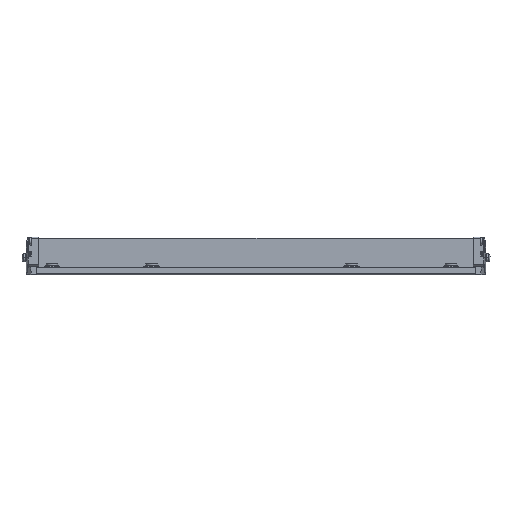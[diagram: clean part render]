
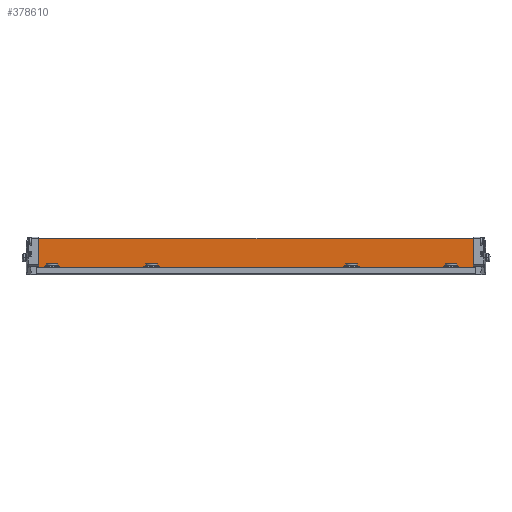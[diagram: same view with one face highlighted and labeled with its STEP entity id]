
A CAD part, top view. The second image highlights one B-rep face of the part: STEP entity #378610.
In plain terms, the highlighted planar face has unit normal (0, 0, 1) as drawn and (1, 0, 0) by its records, which use the part's own axes.
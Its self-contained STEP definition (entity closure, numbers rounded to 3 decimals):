
#211450=CARTESIAN_POINT('',(-66.069,244.882,437.516));
#211460=VERTEX_POINT('',#211450);
#211800=CARTESIAN_POINT('',(-66.069,244.882,2.484));
#211810=VERTEX_POINT('',#211800);
#211840=CARTESIAN_POINT('',(-66.069,244.882,1337.516));
#211850=DIRECTION('',(0.,0.,-1.));
#211860=VECTOR('',#211850,1.);
#211870=LINE('',#211840,#211860);
#211880=EDGE_CURVE('',#211460,#211810,#211870,.T.);
#214110=CARTESIAN_POINT('',(-66.069,217.382,0.));
#214120=DIRECTION('',(0.,0.,1.));
#214130=VECTOR('',#214120,1.);
#214140=LINE('',#214110,#214130);
#214150=CARTESIAN_POINT('',(-66.069,217.382,
-0.006));
#214160=VERTEX_POINT('',#214150);
#214170=CARTESIAN_POINT('',(-66.069,217.382,2.484));
#214180=VERTEX_POINT('',#214170);
#214190=EDGE_CURVE('',#214160,#214180,#214140,.T.);
#242710=CARTESIAN_POINT('',(-66.069,0.,2.484));
#242720=DIRECTION('',(0.,1.,0.));
#242730=VECTOR('',#242720,1.);
#242740=LINE('',#242710,#242730);
#242750=EDGE_CURVE('',#214180,#211810,#242740,.T.);
#253280=CARTESIAN_POINT('',(-66.069,215.382,
448.217));
#253290=VERTEX_POINT('',#253280);
#253320=CARTESIAN_POINT('',(-66.069,215.382,0.));
#253330=DIRECTION('',(0.,0.,1.));
#253340=VECTOR('',#253330,1.);
#253350=LINE('',#253320,#253340);
#253360=CARTESIAN_POINT('',(-66.069,215.382,0.));
#253370=VERTEX_POINT('',#253360);
#253380=EDGE_CURVE('',#253370,#253290,#253350,.T.);
#289860=CARTESIAN_POINT('',(-66.069,0.,0.));
#289870=DIRECTION('',(0.,-1.,0.));
#289880=VECTOR('',#289870,1.);
#289890=LINE('',#289860,#289880);
#289900=EDGE_CURVE('',#214160,#253370,#289890,.T.);
#378260=CARTESIAN_POINT('',(-66.069,212.432,-134.));
#378270=DIRECTION('',(1.,0.,0.));
#378280=DIRECTION('',(0.,-1.,0.));
#378290=AXIS2_PLACEMENT_3D('',#378260,#378270,#378280);
#378300=PLANE('',#378290);
#378310=CARTESIAN_POINT('',(-66.07,225.495,
282.546));
#378320=DIRECTION('',(-1.,0.,0.));
#378330=DIRECTION('',(0.,1.,0.));
#378340=AXIS2_PLACEMENT_3D('',#378310,#378320,#378330);
#378350=CIRCLE('',#378340,165.979);
#378360=CARTESIAN_POINT('',(-66.069,217.382,
448.327));
#378370=VERTEX_POINT('',#378360);
#378380=EDGE_CURVE('',#253290,#378370,#378350,.T.);
#378390=ORIENTED_EDGE('',*,*,#378380,.F.);
#378400=CARTESIAN_POINT('',(-66.069,217.382,-900.));
#378410=DIRECTION('',(0.,0.,-1.));
#378420=VECTOR('',#378410,1.);
#378430=LINE('',#378400,#378420);
#378440=CARTESIAN_POINT('',(-66.069,217.382,437.516));
#378450=VERTEX_POINT('',#378440);
#378460=EDGE_CURVE('',#378370,#378450,#378430,.T.);
#378470=ORIENTED_EDGE('',*,*,#378460,.F.);
#378480=CARTESIAN_POINT('',(-66.069,0.,437.516));
#378490=DIRECTION('',(0.,1.,0.));
#378500=VECTOR('',#378490,1.);
#378510=LINE('',#378480,#378500);
#378520=EDGE_CURVE('',#378450,#211460,#378510,.T.);
#378530=ORIENTED_EDGE('',*,*,#378520,.F.);
#378540=ORIENTED_EDGE('',*,*,#211880,.F.);
#378550=ORIENTED_EDGE('',*,*,#242750,.T.);
#378560=ORIENTED_EDGE('',*,*,#214190,.T.);
#378570=ORIENTED_EDGE('',*,*,#289900,.F.);
#378580=ORIENTED_EDGE('',*,*,#253380,.F.);
#378590=EDGE_LOOP('',(#378580,#378570,#378560,#378550,#378540,#378530,
#378470,#378390));
#378600=FACE_OUTER_BOUND('',#378590,.T.);
#378610=ADVANCED_FACE('',(#378600),#378300,.T.);
